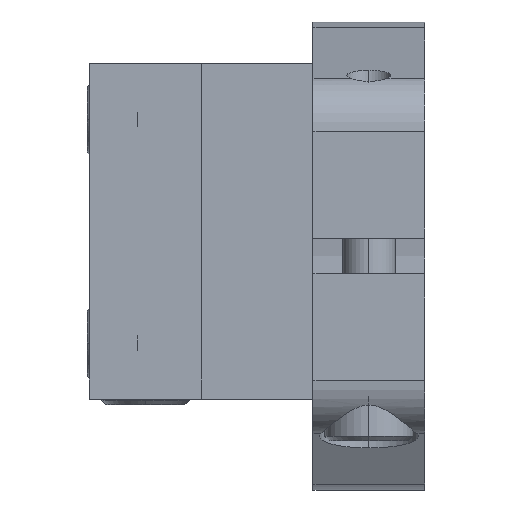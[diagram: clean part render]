
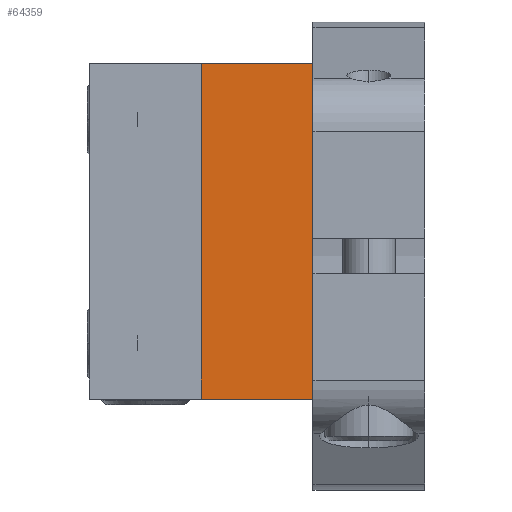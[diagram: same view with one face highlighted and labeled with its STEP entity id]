
A CAD part, left-side view. The second image highlights one B-rep face of the part: STEP entity #64359.
In plain terms, the highlighted planar face has unit normal (-1, 0, 0) as drawn and (0, 0, 1) by its records, which use the part's own axes.
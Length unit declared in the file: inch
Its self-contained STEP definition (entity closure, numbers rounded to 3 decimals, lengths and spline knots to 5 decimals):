
#3900 = EDGE_LOOP ( 'NONE', ( #49656, #49657, #49658, #49659 ) ) ;
#6980 = LINE ( 'NONE', #35020, #6981 ) ;
#6981 = VECTOR ( 'NONE', #35019, 39.37008 ) ;
#6986 = LINE ( 'NONE', #35014, #6987 ) ;
#6987 = VECTOR ( 'NONE', #35013, 39.37008 ) ;
#6988 = LINE ( 'NONE', #35012, #6989 ) ;
#6989 = VECTOR ( 'NONE', #35011, 39.37008 ) ;
#12317 = EDGE_CURVE ( 'NONE', #54696, #66698, #6980, .T. ) ;
#12320 = EDGE_CURVE ( 'NONE', #54693, #65383, #6986, .T. ) ;
#12321 = EDGE_CURVE ( 'NONE', #54696, #54693, #6988, .T. ) ;
#16225 = DIRECTION ( 'NONE',  ( -1., 0., 0. ) ) ;
#16226 = DIRECTION ( 'NONE',  ( 0., 0., -1. ) ) ;
#16227 = CARTESIAN_POINT ( 'NONE',  ( 0., 0.5, 0. ) ) ;
#16228 = PLANE ( 'NONE',  #18978 ) ;
#18978 = AXIS2_PLACEMENT_3D ( 'NONE', #16227, #16226, #16225 ) ;
#22879 = CARTESIAN_POINT ( 'NONE',  ( 0., 0.5, 0. ) ) ;
#22882 = CARTESIAN_POINT ( 'NONE',  ( 1.5, 0.5, 0. ) ) ;
#24226 = FACE_OUTER_BOUND ( 'NONE', #3900, .T. ) ;
#27496 = LINE ( 'NONE', #44516, #27497 ) ;
#27497 = VECTOR ( 'NONE', #44514, 39.37008 ) ;
#35011 = DIRECTION ( 'NONE',  ( 1., 0., 0. ) ) ;
#35012 = CARTESIAN_POINT ( 'NONE',  ( 0., 0.5, 0. ) ) ;
#35013 = DIRECTION ( 'NONE',  ( 0., -1., 0. ) ) ;
#35014 = CARTESIAN_POINT ( 'NONE',  ( 1.5, 0.5, 0. ) ) ;
#35019 = DIRECTION ( 'NONE',  ( 0., -1., 0. ) ) ;
#35020 = CARTESIAN_POINT ( 'NONE',  ( 0., 0.5, 0. ) ) ;
#44514 = DIRECTION ( 'NONE',  ( 1., 0., 0. ) ) ;
#44516 = CARTESIAN_POINT ( 'NONE',  ( 0., 0., 0. ) ) ;
#49656 = ORIENTED_EDGE ( 'NONE', *, *, #49882, .T. ) ;
#49657 = ORIENTED_EDGE ( 'NONE', *, *, #12320, .F. ) ;
#49658 = ORIENTED_EDGE ( 'NONE', *, *, #12321, .F. ) ;
#49659 = ORIENTED_EDGE ( 'NONE', *, *, #12317, .T. ) ;
#49882 = EDGE_CURVE ( 'NONE', #66698, #65383, #27496, .T. ) ;
#54693 = VERTEX_POINT ( 'NONE', #22882 ) ;
#54696 = VERTEX_POINT ( 'NONE', #22879 ) ;
#62688 = CARTESIAN_POINT ( 'NONE',  ( 1.5, 0., 0. ) ) ;
#63189 = CARTESIAN_POINT ( 'NONE',  ( 0., 0., 0. ) ) ;
#64359 = ADVANCED_FACE ( 'NONE', ( #24226 ), #16228, .F. ) ;
#65383 = VERTEX_POINT ( 'NONE', #62688 ) ;
#66698 = VERTEX_POINT ( 'NONE', #63189 ) ;
